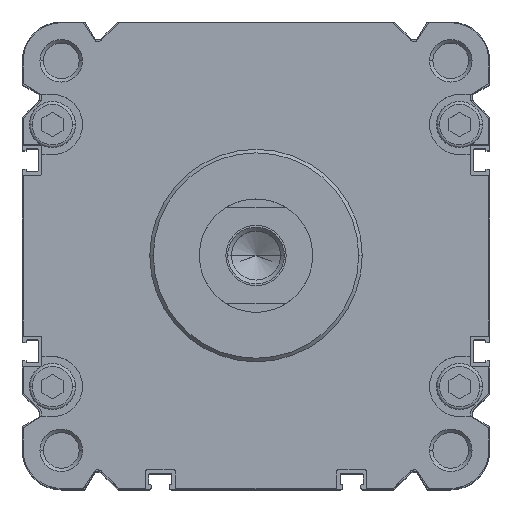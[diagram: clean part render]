
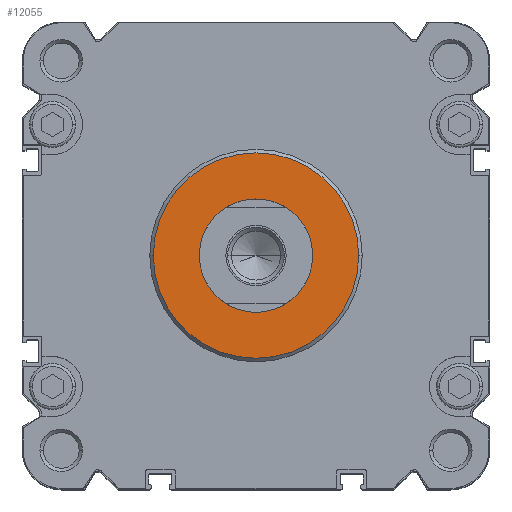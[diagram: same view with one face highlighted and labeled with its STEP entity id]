
A CAD part, top view. The second image highlights one B-rep face of the part: STEP entity #12055.
In plain terms, the highlighted planar face has unit normal (0, 0, 1).
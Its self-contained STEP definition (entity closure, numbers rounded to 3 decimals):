
#91 = CARTESIAN_POINT ( 'NONE',  ( 0., 0., 4. ) ) ;
#610 = ORIENTED_EDGE ( 'NONE', *, *, #7416, .F. ) ;
#677 = EDGE_LOOP ( 'NONE', ( #16821, #4326 ) ) ;
#894 = CIRCLE ( 'NONE', #18628, 29. ) ;
#905 = CARTESIAN_POINT ( 'NONE',  ( 29., 0., 4. ) ) ;
#1986 = VERTEX_POINT ( 'NONE', #905 ) ;
#2572 = DIRECTION ( 'NONE',  ( 1., 0., 0. ) ) ;
#2837 = VERTEX_POINT ( 'NONE', #11081 ) ;
#2917 = AXIS2_PLACEMENT_3D ( 'NONE', #15932, #4403, #19350 ) ;
#2996 = EDGE_LOOP ( 'NONE', ( #610, #18520 ) ) ;
#4326 = ORIENTED_EDGE ( 'NONE', *, *, #17925, .T. ) ;
#4403 = DIRECTION ( 'NONE',  ( 0., 0., -1. ) ) ;
#6060 = PLANE ( 'NONE',  #9373 ) ;
#7129 = EDGE_CURVE ( 'NONE', #13577, #2837, #17603, .T. ) ;
#7416 = EDGE_CURVE ( 'NONE', #1986, #18292, #894, .T. ) ;
#7825 = CARTESIAN_POINT ( 'NONE',  ( 0., 0., 4. ) ) ;
#8042 = CIRCLE ( 'NONE', #17247, 16. ) ;
#8465 = DIRECTION ( 'NONE',  ( 1., 0., 0. ) ) ;
#8848 = CARTESIAN_POINT ( 'NONE',  ( 16., 0., 4. ) ) ;
#9356 = FACE_BOUND ( 'NONE', #677, .T. ) ;
#9373 = AXIS2_PLACEMENT_3D ( 'NONE', #10966, #15865, #14284 ) ;
#10703 = DIRECTION ( 'NONE',  ( 0., 0., -1. ) ) ;
#10784 = EDGE_CURVE ( 'NONE', #18292, #1986, #14521, .T. ) ;
#10966 = CARTESIAN_POINT ( 'NONE',  ( 0., -29., 4. ) ) ;
#11081 = CARTESIAN_POINT ( 'NONE',  ( -16., 0., 4. ) ) ;
#12055 = ADVANCED_FACE ( 'NONE', ( #14167, #9356 ), #6060, .T. ) ;
#13151 = DIRECTION ( 'NONE',  ( 0., 0., -1. ) ) ;
#13577 = VERTEX_POINT ( 'NONE', #8848 ) ;
#13719 = CARTESIAN_POINT ( 'NONE',  ( 0., 0., 4. ) ) ;
#14167 = FACE_OUTER_BOUND ( 'NONE', #2996, .T. ) ;
#14284 = DIRECTION ( 'NONE',  ( -1., 0., 0. ) ) ;
#14343 = DIRECTION ( 'NONE',  ( 0., 0., -1. ) ) ;
#14521 = CIRCLE ( 'NONE', #2917, 29. ) ;
#15231 = AXIS2_PLACEMENT_3D ( 'NONE', #13719, #10703, #2572 ) ;
#15381 = CARTESIAN_POINT ( 'NONE',  ( -29., 0., 4. ) ) ;
#15865 = DIRECTION ( 'NONE',  ( 0., 0., 1. ) ) ;
#15932 = CARTESIAN_POINT ( 'NONE',  ( 0., 0., 4. ) ) ;
#16821 = ORIENTED_EDGE ( 'NONE', *, *, #7129, .T. ) ;
#17247 = AXIS2_PLACEMENT_3D ( 'NONE', #7825, #14343, #17830 ) ;
#17603 = CIRCLE ( 'NONE', #15231, 16. ) ;
#17830 = DIRECTION ( 'NONE',  ( 1., 0., 0. ) ) ;
#17925 = EDGE_CURVE ( 'NONE', #2837, #13577, #8042, .T. ) ;
#18292 = VERTEX_POINT ( 'NONE', #15381 ) ;
#18520 = ORIENTED_EDGE ( 'NONE', *, *, #10784, .F. ) ;
#18628 = AXIS2_PLACEMENT_3D ( 'NONE', #91, #13151, #8465 ) ;
#19350 = DIRECTION ( 'NONE',  ( 1., 0., 0. ) ) ;
